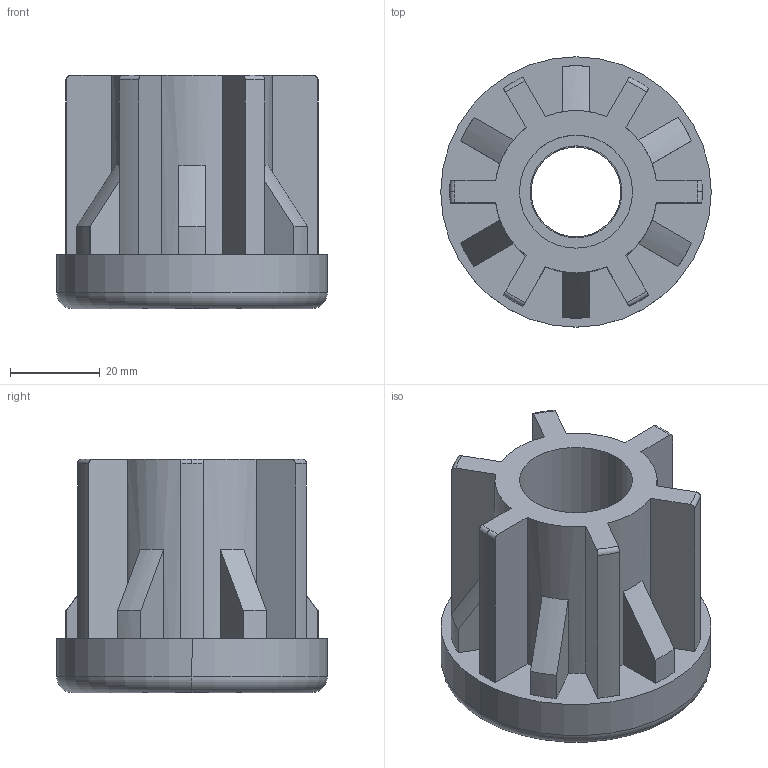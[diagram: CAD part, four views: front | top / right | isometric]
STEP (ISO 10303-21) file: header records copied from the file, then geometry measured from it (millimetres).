
FILE_DESCRIPTION (( 'STEP AP214' ), '1' );
FILE_NAME ('42006460320.STEP', '2020-02-25T17:27:09', ( '' ), ( '' ), 'SwSTEP 2.0', 'SolidWorks 2018', '' );
FILE_SCHEMA (( 'AUTOMOTIVE_DESIGN' ));
Length unit declared in the file: millimetre
Products named in the file (4): BC_M20.stp; 42006460320; 42006460320.stp; corpo tappo M20_60_57.stp
Assembly tree (3 placements, depth 3):
  42006460320
    42006460320.stp
      corpo tappo M20_60_57.stp
      BC_M20.stp
Bounding box: 60.3 x 60.3 x 52 mm (x, y, z)
Volume: 71103.8 mm3; surface area: 24696.3 mm2
Topology: 2 solids, 2 shells, 108 faces, 282 edges, 182 vertices
Faces by surface type: cylinder 46, plane 32, torus 16, cone 8, bspline 6
Entity records: 4344 total; most frequent: CARTESIAN_POINT 1539, DIRECTION 578, ORIENTED_EDGE 564, EDGE_CURVE 282, AXIS2_PLACEMENT_3D 229, VERTEX_POINT 182, LINE 120, VECTOR 120
